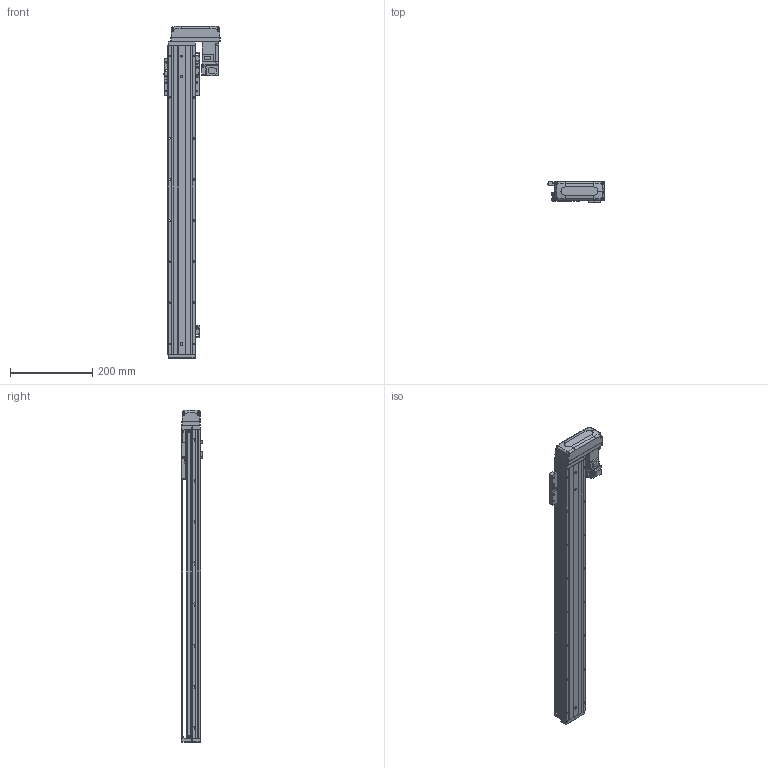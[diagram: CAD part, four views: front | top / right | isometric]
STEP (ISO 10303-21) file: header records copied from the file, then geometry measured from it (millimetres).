
FILE_DESCRIPTION (( 'STEP AP203' ), '1' );
FILE_NAME ('KTHAL60-600-BL-M10-C4L.step', '2022-03-19T08:38:45', ( '微软用户' ), ( '微软中国' ), 'SwSTEP 2.0', 'SolidWorks 2020', '' );
FILE_SCHEMA (( 'CONFIG_CONTROL_DESIGN' ));
Length unit declared in the file: millimetre
Products named in the file (18): KTHLA60-002; CTHA60-021; CTHA60-033; KTHA60-004; GBT 70.1-M4×16; GBT 70.1-M3×15; KTHA60-005; GBT77-2000M3-3; KTHAL60-600-BL-M10-C4L; GB¨uT 70.2-M3¡Á5_M3¡Á6; GBT 70.1-M3℅6; GBT 70.3-M3℅6; CTHA60-016; EE_SX911P_R; HG-KR13（三菱）; KTHA60-001_750; CTHA60-017; CTHA60-015-2_CTHA60-015-2
Assembly tree (51 placements, depth 2):
  KTHAL60-600-BL-M10-C4L
    KTHA60-001_750
    KTHLA60-002
    KTHA60-004
    KTHA60-005
    GB¨uT 70.2-M3¡Á5_M3¡Á6  x5
    GBT 70.3-M3℅6  x4
    EE_SX911P_R  x3
    CTHA60-017  x3
    CTHA60-021  x2
    GBT 70.1-M4×16  x10
    GBT77-2000M3-3  x6
    GBT 70.1-M3℅6  x6
    CTHA60-016
    HG-KR13（三菱）
    CTHA60-015-2_CTHA60-015-2
    CTHA60-033
    GBT 70.1-M3×15  x4
Bounding box: 137 x 53.3 x 807 mm (x, y, z)
Volume: 1698529 mm3; surface area: 419584.2 mm2
Topology: 54 solids, 54 shells, 2315 faces, 5499 edges, 3377 vertices
Faces by surface type: plane 1324, cylinder 565, cone 288, torus 98, bspline 26, sphere 14
Entity records: 40639 total; most frequent: CARTESIAN_POINT 7672, DIRECTION 6353, ORIENTED_EDGE 6142, EDGE_CURVE 3071, AXIS2_PLACEMENT_3D 2125, LINE 2103, VECTOR 2103, VERTEX_POINT 1926
